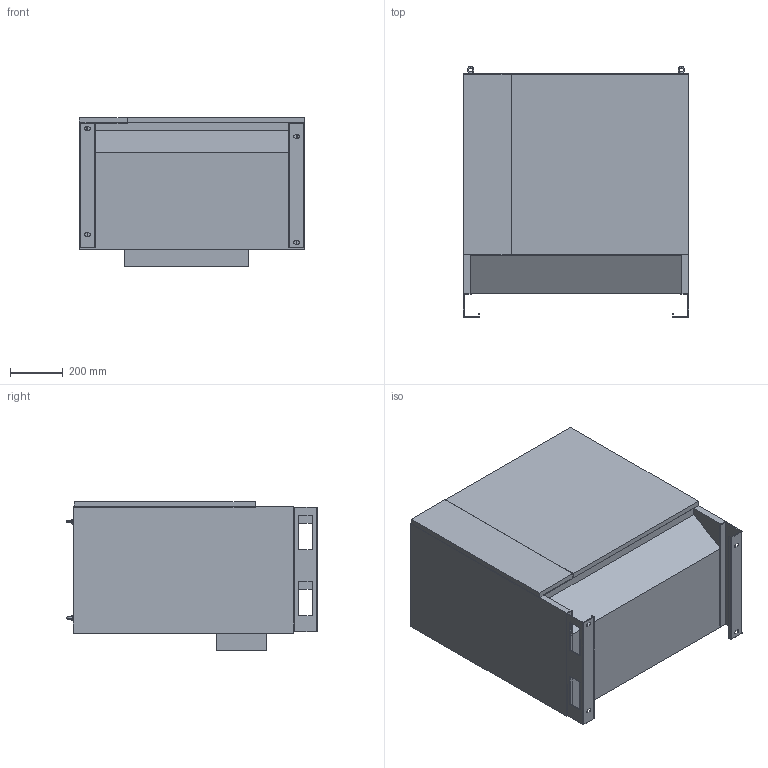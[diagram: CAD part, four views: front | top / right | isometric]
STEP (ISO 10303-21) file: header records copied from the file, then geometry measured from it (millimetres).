
FILE_DESCRIPTION(/* description */ (''),/* implementation_level */ '2;1');
FILE_NAME(/* name */ '80电柜_stp.stp',/* time_stamp */ '2023-05-10T10:38:42+08:00',/* author */ (''),/* organization */ (''),/* preprocessor_version */ 'ST-DEVELOPER v16.7',/* originating_system */ 'SIEMENS PLM Software NX 1847',/* authorisation */ '');
FILE_SCHEMA (('AUTOMOTIVE_DESIGN { 1 0 10303 214 3 1 1 1 }'));
Length unit declared in the file: millimetre
Products named in the file (1): JD18281BA0d8vy
Bounding box: 850 x 946.49 x 562.5 mm (x, y, z)
Volume: 345842015.3 mm3; surface area: 4649091.2 mm2
Topology: 9 solids, 9 shells, 227 faces, 698 edges, 488 vertices
Faces by surface type: plane 109, cylinder 78, bspline 28, cone 8, torus 4
Full cylindrical faces by diameter (mm): 6 x48, 140.914 x2
Entity records: 15503 total; most frequent: CARTESIAN_POINT 10133, ORIENTED_EDGE 1248, DIRECTION 726, EDGE_CURVE 624, VERTEX_POINT 480, LINE 244, VECTOR 244, AXIS2_PLACEMENT_3D 241
